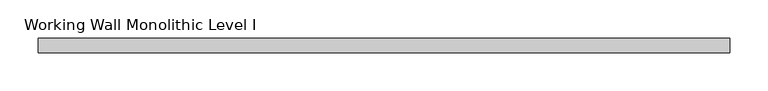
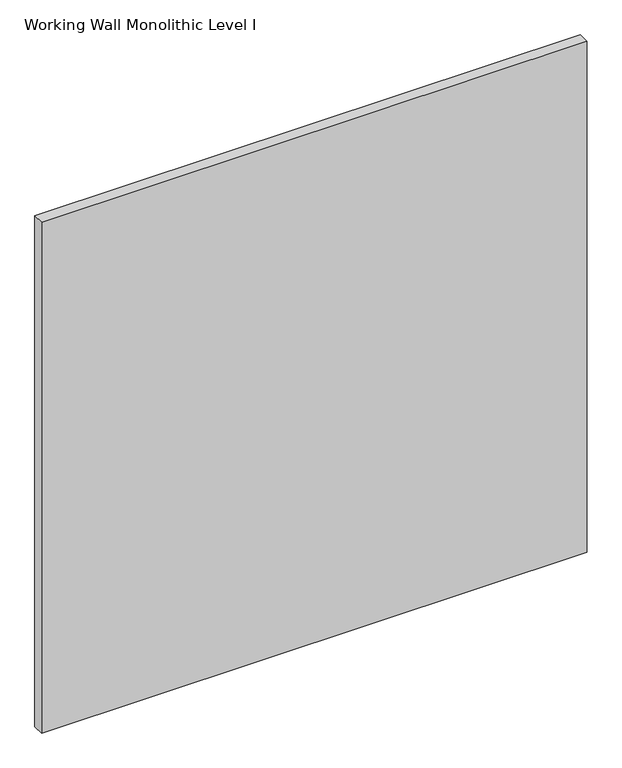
"""IFC4 building model written with IfcOpenShell, lengths in millimetres: proxy geometry, Panel-Fascia-Teknion-Altos-Standard : Working Wall Monolithic Level I."""

from ifc_helpers import new_model, si_unit, frame, origin, place, context, project, spatial, polyline, outline, extrude, source, transform, mapped, element, save


def working_wall_monolithic_level_i_f3196e79(model_context):
    return source(origin(), model_context, "Body", "SweptSolid", [
        extrude(outline(polyline([(454.025, -9.525), (-454.025, -9.525), (-454.025, 9.525), (454.025, 9.525), (454.025, -9.525)])), frame((0.0, 0.0, 3.175), z_axis=(0.0, 0.0, 1.0), x_axis=(1.0, 0.0, 0.0)), (0.0, 0.0, 1.0), 898.525),
    ])


if __name__ == "__main__":
    model = new_model("IFC4")
    model_context = context("Model", 3, world=origin())
    ifc_project = project(units=[si_unit("LENGTHUNIT", "METRE", prefix="MILLI")], contexts=[model_context])
    site = spatial("IfcSite", under=ifc_project)
    building = spatial("IfcBuilding", under=site)
    placement = place(None, origin())
    working_wall_monolithic_level_i_shape = working_wall_monolithic_level_i_f3196e79(model_context)
    element("IfcBuildingElementProxy", 1, Name="Panel-Fascia-Teknion-Altos-Standard : Working Wall Monolithic Level I", ObjectType="Panel-Fascia-Teknion-Altos-Standard : Working Wall Monolithic Level I", at=placement, inside=building, context=model_context, shape_type="MappedRepresentation", body=[
        mapped(working_wall_monolithic_level_i_shape, transform((0.0, 0.0, 0.0), x_axis=(1.0, 0.0, 0.0), y_axis=(0.0, 1.0, 0.0), z_axis=(0.0, 0.0, 1.0))),
    ])
    save(model, "model.ifc")
